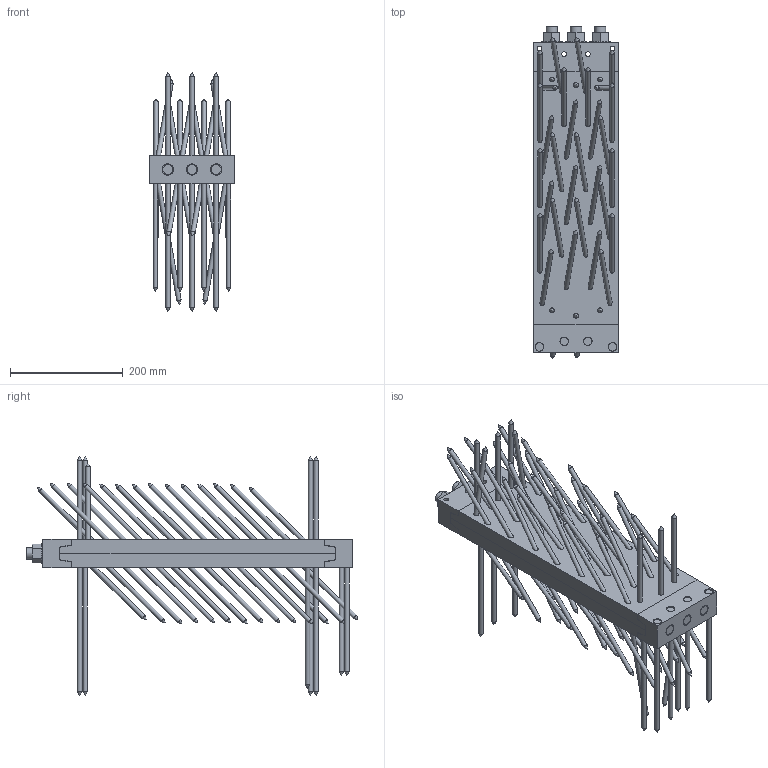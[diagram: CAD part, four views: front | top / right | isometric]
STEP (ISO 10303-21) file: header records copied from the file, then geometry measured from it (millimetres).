
FILE_DESCRIPTION(/* description */ ('Unknown'),/* implementation_level */ '2;1');
FILE_NAME(/* name */ 'MEGANT_550x150x50_Verdeckt',/* time_stamp */ '2020-05-06T08:25:45+02:00',/* author */ ('Unknown'),/* organization */ ('Unknown'),/* preprocessor_version */ 'ST-DEVELOPER v16.7',/* originating_system */ 'DEX',/* authorisation */ $);
FILE_SCHEMA (('AUTOMOTIVE_DESIGN {1 0 10303 214 3 1 1}'));
Length unit declared in the file: millimetre
Products named in the file (13): MEGANT_550x150x50_Verdeckt; Verbinderplatte_490x150x25_NT; SK_Schraube_8x240; Verbinderplatte_490x150x25; SK_Schraube_8x160; Verbinderplatte_490x150x25_HT; Spannbacke_oben_150x50x50; Spannbacke_unten_150x50x50_NT; Spannbacke_unten_150x50x50; Gewindestange_M20_L580; Mutter_M20; Beilagscheibe_M20
Assembly tree (89 placements, depth 3):
  MEGANT_550x150x50_Verdeckt
    Verbinderplatte_490x150x25_NT
      SK_Schraube_8x240  x8
      Verbinderplatte_490x150x25
      SK_Schraube_8x160  x28
    Verbinderplatte_490x150x25_HT
      SK_Schraube_8x160  x36
      Verbinderplatte_490x150x25
    Spannbacke_oben_150x50x50
    Spannbacke_unten_150x50x50_NT
      Spannbacke_unten_150x50x50
      SK_Schraube_8x240  x4
    Gewindestange_M20_L580  x3
      Gewindestange_M20_L580
      Mutter_M20
      Beilagscheibe_M20
Bounding box: 150 x 589.49 x 424 mm (x, y, z)
Volume: 4366027.8 mm3; surface area: 1040336.2 mm2
Topology: 89 solids, 89 shells, 865 faces, 2003 edges, 1253 vertices
Faces by surface type: cylinder 338, plane 295, cone 232
Full cylindrical faces by diameter (mm): 8 x76, 8.5 x80, 15 x156, 17.294 x6, 20 x3, 21 x6, 37 x3
Entity records: 8287 total; most frequent: DIRECTION 1416, CARTESIAN_POINT 1246, ORIENTED_EDGE 984, AXIS2_PLACEMENT_3D 568, FACE_BOUND 526, EDGE_LOOP 524, EDGE_CURVE 492, VERTEX_POINT 398
